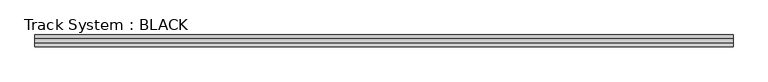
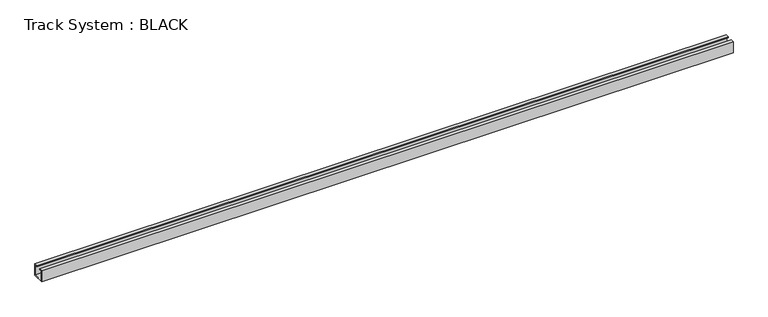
"""IFC4 building model written with IfcOpenShell, lengths in millimetres: proxy geometry, Track System : BLACK."""

from ifc_helpers import new_model, si_unit, frame, origin, place, context, project, spatial, polyline, outline, extrude, source, transform, mapped, element, save


def track_system_black_ada04166(model_context):
    return source(origin(), model_context, "Body", "SweptSolid", [
        extrude(outline(polyline([(-7.0, 32.5), (-7.0, 29.5366355), (-8.0, 29.5366355), (-8.0, 31.5), (-14.9857524, 31.5), (-14.9857524, 1.0), (15.0, 1.0), (15.0, 31.5), (8.0, 31.5), (8.0, 29.5366355), (7.0, 29.5366355), (7.0, 32.5), (16.0, 32.5), (16.0, 0.0), (-15.9857524, 0.0), (-15.9857524, 32.5), (-7.0, 32.5)])), frame((-950.0, 0.0, 0.0), z_axis=(1.0, 0.0, 0.0), x_axis=(0.0, 1.0, 0.0)), (0.0, 0.0, 1.0), 1900.0),
    ])


if __name__ == "__main__":
    model = new_model("IFC4")
    model_context = context("Model", 3, world=origin())
    ifc_project = project(units=[si_unit("LENGTHUNIT", "METRE", prefix="MILLI")], contexts=[model_context])
    site = spatial("IfcSite", under=ifc_project)
    building = spatial("IfcBuilding", under=site)
    placement = place(None, origin())
    track_system_black_shape = track_system_black_ada04166(model_context)
    element("IfcBuildingElementProxy", 1, Name="Track System : BLACK", ObjectType="Track System : BLACK", at=placement, inside=building, context=model_context, shape_type="MappedRepresentation", body=[
        mapped(track_system_black_shape, transform((0.0, 0.0, 0.0), x_axis=(1.0, 0.0, 0.0), y_axis=(0.0, 1.0, 0.0), z_axis=(0.0, 0.0, 1.0))),
    ])
    save(model, "model.ifc")
